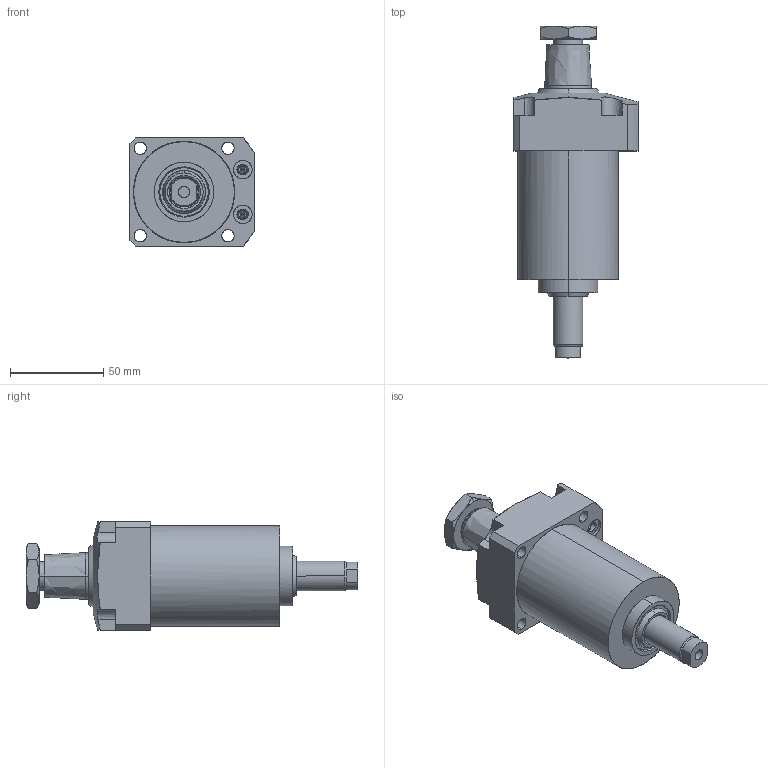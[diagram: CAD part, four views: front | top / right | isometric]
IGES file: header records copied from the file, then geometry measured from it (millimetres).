
Start section: Comment
Global section: file name: JF6H42-24D.igs; native system:  By Spatial Corp.; preprocessor: XPlus GENERIC/IGES 3.0; author: Author; organization: Title; date: 20080526.095917; units: millimetre
Bounding box: 66.5 x 178 x 58 mm (x, y, z)
Surface area: 62859.5 mm2 (no closed solid volume)
Topology: 0 solids, 0 shells, 255 faces, 1132 edges, 1122 vertices
Faces by surface type: bspline 255
